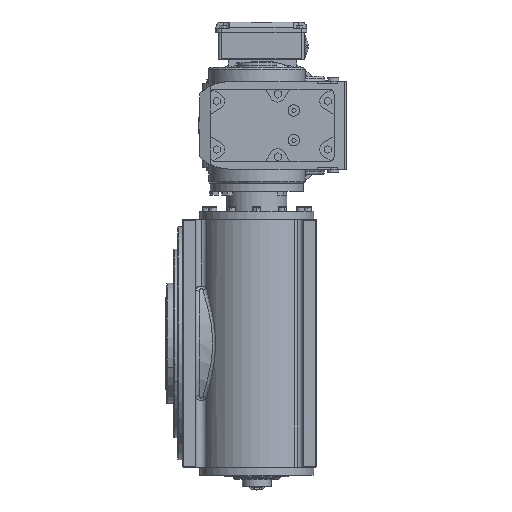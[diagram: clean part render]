
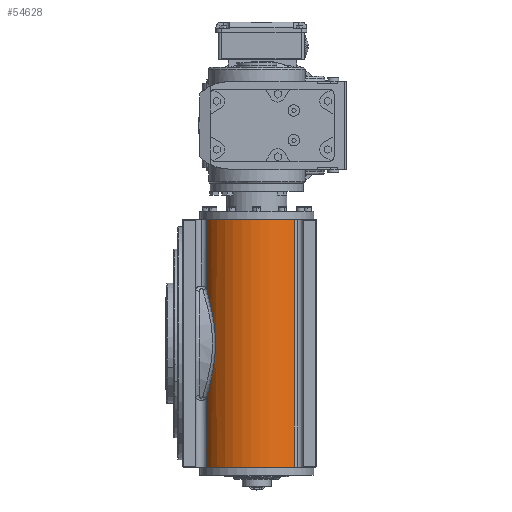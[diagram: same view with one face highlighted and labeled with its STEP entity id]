
A CAD part, left-side view. The second image highlights one B-rep face of the part: STEP entity #54628.
In plain terms, the highlighted cylindrical face has radius 71 mm (diameter 142 mm), a partial arc.
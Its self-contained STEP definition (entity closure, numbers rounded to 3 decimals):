
#1277 = CARTESIAN_POINT ( 'NONE',  ( -142.826, 126.476, -19.641 ) ) ;
#1724 = CARTESIAN_POINT ( 'NONE',  ( -130.722, 135.43, -63.561 ) ) ;
#5941 = VERTEX_POINT ( 'NONE', #69676 ) ;
#7503 = AXIS2_PLACEMENT_3D ( 'NONE', #24090, #81706, #74627 ) ;
#9226 = CARTESIAN_POINT ( 'NONE',  ( -128.109, 136.808, -68.859 ) ) ;
#10549 = LINE ( 'NONE', #67236, #68311 ) ;
#12071 = VERTEX_POINT ( 'NONE', #60986 ) ;
#12124 = LINE ( 'NONE', #34344, #62009 ) ;
#13554 = CARTESIAN_POINT ( 'NONE',  ( -140.598, 128.429, -32.922 ) ) ;
#14539 = CARTESIAN_POINT ( 'NONE',  ( -148.721, 27.577, -154. ) ) ;
#14940 = CARTESIAN_POINT ( 'NONE',  ( -136.889, 131.329, 46.942 ) ) ;
#15918 = LINE ( 'NONE', #14539, #81168 ) ;
#16863 = EDGE_CURVE ( 'NONE', #69339, #68340, #12124, .T. ) ;
#20630 = CARTESIAN_POINT ( 'NONE',  ( -141.192, 127.924, -30.015 ) ) ;
#21090 = CARTESIAN_POINT ( 'NONE',  ( -135.5, 132.319, 51.157 ) ) ;
#21559 = CARTESIAN_POINT ( 'NONE',  ( -141.327, 127.831, 29.758 ) ) ;
#22497 = CARTESIAN_POINT ( 'NONE',  ( -142.345, 126.918, 23.884 ) ) ;
#23119 = CIRCLE ( 'NONE', #81986, 71. ) ;
#23481 = ORIENTED_EDGE ( 'NONE', *, *, #89952, .T. ) ;
#24090 = CARTESIAN_POINT ( 'NONE',  ( -95., 74., -154. ) ) ;
#25600 = CARTESIAN_POINT ( 'NONE',  ( -128.109, 136.808, 68.859 ) ) ;
#26160 = VERTEX_POINT ( 'NONE', #38757 ) ;
#26767 = ORIENTED_EDGE ( 'NONE', *, *, #42344, .F. ) ;
#28655 = CARTESIAN_POINT ( 'NONE',  ( -138.57, 130.069, 41.275 ) ) ;
#28731 = B_SPLINE_CURVE_WITH_KNOTS ( 'NONE', 3,
 ( #35295, #43763, #65442, #21090, #49845, #14940, #93289, #28655, #44214, #21559, #22497, #57411, #30055, #57911, #50320, #79204, #65924, #29609, #72128, #1277, #78265, #86773, #79679, #20630, #13554, #42364, #49405, #71183, #1724, #9226 ),
 .UNSPECIFIED., .F., .F.,
 ( 4, 2, 2, 2, 2, 2, 2, 2, 2, 2, 2, 2, 2, 2, 4 ),
 ( 0., 0.018, 0.023, 0.027, 0.036, 0.055, 0.059, 0.064, 0.073, 0.091, 0.095, 0.1, 0.109, 0.127, 0.145 ),
 .UNSPECIFIED. ) ;
#29609 = CARTESIAN_POINT ( 'NONE',  ( -144.04, 125.343, -6.17 ) ) ;
#30055 = CARTESIAN_POINT ( 'NONE',  ( -143.351, 125.993, 14.878 ) ) ;
#30946 = VERTEX_POINT ( 'NONE', #25600 ) ;
#32927 = DIRECTION ( 'NONE',  ( 0., 0., -1. ) ) ;
#34344 = CARTESIAN_POINT ( 'NONE',  ( -128.109, 136.808, 500000. ) ) ;
#35295 = CARTESIAN_POINT ( 'NONE',  ( -128.109, 136.808, 68.859 ) ) ;
#38757 = CARTESIAN_POINT ( 'NONE',  ( -148.721, 27.577, -154. ) ) ;
#42344 = EDGE_CURVE ( 'NONE', #5941, #12071, #23119, .T. ) ;
#42364 = CARTESIAN_POINT ( 'NONE',  ( -138.584, 130.076, -41.542 ) ) ;
#43763 = CARTESIAN_POINT ( 'NONE',  ( -130.725, 135.429, 63.555 ) ) ;
#43946 = FACE_OUTER_BOUND ( 'NONE', #73494, .T. ) ;
#44214 = CARTESIAN_POINT ( 'NONE',  ( -139.32, 129.475, 38.415 ) ) ;
#45017 = DIRECTION ( 'NONE',  ( 0., 0., 1. ) ) ;
#45890 = CIRCLE ( 'NONE', #54936, 71. ) ;
#46162 = CARTESIAN_POINT ( 'NONE',  ( -95., 74., -154. ) ) ;
#46248 = EDGE_CURVE ( 'NONE', #30946, #69339, #28731, .T. ) ;
#48432 = DIRECTION ( 'NONE',  ( 1., 0., 0. ) ) ;
#49405 = CARTESIAN_POINT ( 'NONE',  ( -136.93, 131.346, -47.157 ) ) ;
#49845 = CARTESIAN_POINT ( 'NONE',  ( -135.977, 131.984, 49.755 ) ) ;
#50320 = CARTESIAN_POINT ( 'NONE',  ( -143.713, 125.653, 10.36 ) ) ;
#52823 = CYLINDRICAL_SURFACE ( 'NONE', #7503, 71. ) ;
#54505 = CARTESIAN_POINT ( 'NONE',  ( -128.109, 136.808, -154. ) ) ;
#54628 = ADVANCED_FACE ( 'NONE', ( #43946 ), #52823, .T. ) ;
#54936 = AXIS2_PLACEMENT_3D ( 'NONE', #46162, #84486, #69780 ) ;
#57411 = CARTESIAN_POINT ( 'NONE',  ( -143.2, 126.132, 16.387 ) ) ;
#57523 = EDGE_CURVE ( 'NONE', #30946, #5941, #10549, .T. ) ;
#57911 = CARTESIAN_POINT ( 'NONE',  ( -143.607, 125.753, 11.865 ) ) ;
#60654 = EDGE_CURVE ( 'NONE', #68340, #26160, #45890, .T. ) ;
#60986 = CARTESIAN_POINT ( 'NONE',  ( -148.721, 27.577, 154. ) ) ;
#62009 = VECTOR ( 'NONE', #32927, 1000. ) ;
#63809 = ORIENTED_EDGE ( 'NONE', *, *, #60654, .T. ) ;
#65442 = CARTESIAN_POINT ( 'NONE',  ( -133.018, 134.012, 58.125 ) ) ;
#65924 = CARTESIAN_POINT ( 'NONE',  ( -144.049, 125.334, 2.839 ) ) ;
#65965 = DIRECTION ( 'NONE',  ( 0., 0., 1. ) ) ;
#66654 = ORIENTED_EDGE ( 'NONE', *, *, #57523, .F. ) ;
#67236 = CARTESIAN_POINT ( 'NONE',  ( -128.109, 136.808, -500000. ) ) ;
#68311 = VECTOR ( 'NONE', #45017, 1000. ) ;
#68340 = VERTEX_POINT ( 'NONE', #54505 ) ;
#69339 = VERTEX_POINT ( 'NONE', #77134 ) ;
#69676 = CARTESIAN_POINT ( 'NONE',  ( -128.109, 136.808, 154. ) ) ;
#69703 = DIRECTION ( 'NONE',  ( 0., 0., 1. ) ) ;
#69780 = DIRECTION ( 'NONE',  ( 1., 0., 0. ) ) ;
#71183 = CARTESIAN_POINT ( 'NONE',  ( -132.999, 134.023, -58.167 ) ) ;
#72128 = CARTESIAN_POINT ( 'NONE',  ( -143.692, 125.681, -12.164 ) ) ;
#73494 = EDGE_LOOP ( 'NONE', ( #66654, #73780, #80298, #63809, #23481, #26767 ) ) ;
#73780 = ORIENTED_EDGE ( 'NONE', *, *, #46248, .T. ) ;
#74627 = DIRECTION ( 'NONE',  ( 1., 0., 0. ) ) ;
#77134 = CARTESIAN_POINT ( 'NONE',  ( -128.109, 136.808, -68.859 ) ) ;
#78265 = CARTESIAN_POINT ( 'NONE',  ( -142.631, 126.653, -21.138 ) ) ;
#79204 = CARTESIAN_POINT ( 'NONE',  ( -143.967, 125.413, 5.846 ) ) ;
#79679 = CARTESIAN_POINT ( 'NONE',  ( -141.962, 127.251, -25.6 ) ) ;
#80298 = ORIENTED_EDGE ( 'NONE', *, *, #16863, .T. ) ;
#81168 = VECTOR ( 'NONE', #65965, 1000. ) ;
#81706 = DIRECTION ( 'NONE',  ( 0., 0., 1. ) ) ;
#81986 = AXIS2_PLACEMENT_3D ( 'NONE', #91878, #69703, #48432 ) ;
#84486 = DIRECTION ( 'NONE',  ( 0., 0., 1. ) ) ;
#86773 = CARTESIAN_POINT ( 'NONE',  ( -142.199, 127.041, -24.119 ) ) ;
#89952 = EDGE_CURVE ( 'NONE', #26160, #12071, #15918, .T. ) ;
#91878 = CARTESIAN_POINT ( 'NONE',  ( -95., 74., 154. ) ) ;
#93289 = CARTESIAN_POINT ( 'NONE',  ( -137.325, 131.008, 45.529 ) ) ;
